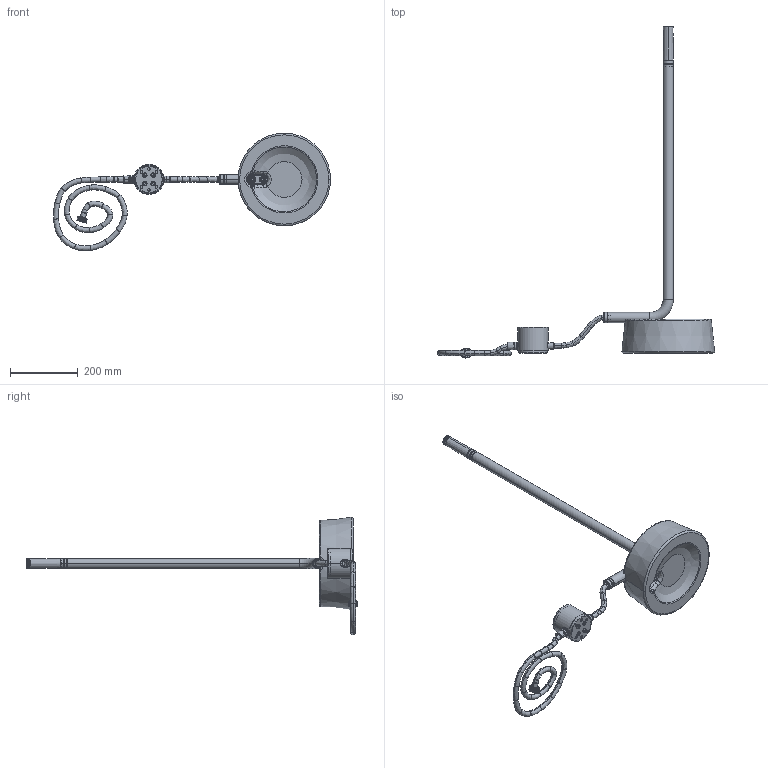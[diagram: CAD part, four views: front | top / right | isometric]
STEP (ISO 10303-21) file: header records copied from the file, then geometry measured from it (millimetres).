
FILE_DESCRIPTION((''),'2;1');
FILE_NAME('F5973_ASM','2023-05-24T09:11:06',('samuelef'),(''),'CREO PARAMETRIC BY PTC INC, 2021184','CREO PARAMETRIC BY PTC INC, 2021184','');
FILE_SCHEMA(('CONFIG_CONTROL_DESIGN'));
Products named in the file (14): 1989; 1991IN; 1701IN; 1964IN_L; 4039; 1983IN; 1984IN; 1985IN; 1969IN_L; A1983_ASM; 7748-1905-001; CALOTTA_G3_4; CALOTTA_G1_2; F5973_ASM
Assembly tree (14 placements, depth 3):
  F5973_ASM
    1989
    1991IN
    1701IN  x2
    1964IN_L
    4039
    A1983_ASM
      1983IN
      1984IN
      1985IN
      1969IN_L
    7748-1905-001
    CALOTTA_G3_4
    CALOTTA_G1_2
Bounding box: 819.33 x 981.4 x 347.96 mm (x, y, z)
Volume: 5547423.5 mm3; surface area: 680700.7 mm2
Topology: 15 solids, 15 shells, 4839 faces, 12550 edges, 8190 vertices
Faces by surface type: plane 2939, bspline 805, cone 568, cylinder 329, torus 113, extrusion 83, sphere 2
Entity records: 204892 total; most frequent: CARTESIAN_POINT 102180, ORIENTED_EDGE 25004, DIRECTION 14834, EDGE_CURVE 12502, VERTEX_POINT 8164, B_SPLINE_CURVE_WITH_KNOTS 7157, AXIS2_PLACEMENT_3D 5364, EDGE_LOOP 5316
